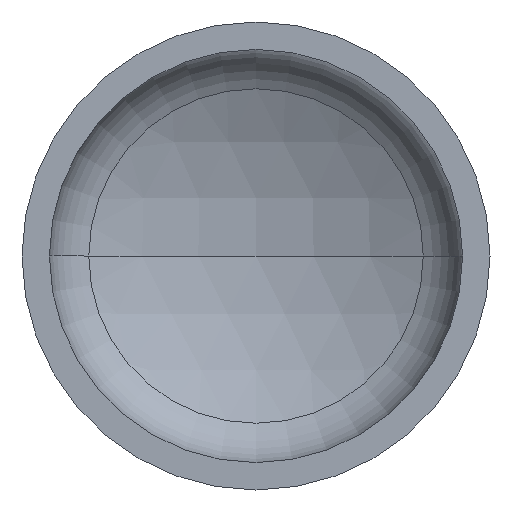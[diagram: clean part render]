
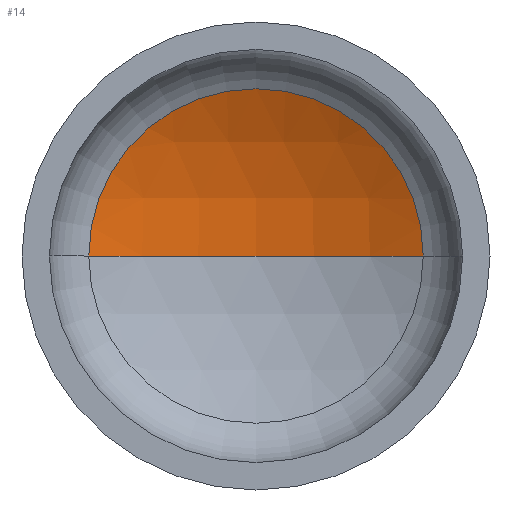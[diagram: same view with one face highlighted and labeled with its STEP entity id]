
A CAD part, front view. The second image highlights one B-rep face of the part: STEP entity #14.
In plain terms, the highlighted spherical face has radius 254 mm.
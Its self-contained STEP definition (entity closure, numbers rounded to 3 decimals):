
#3 = VERTEX_POINT ( 'NONE', #191 ) ;
#12 = AXIS2_PLACEMENT_3D ( 'NONE', #239, #400, #274 ) ;
#14 = ADVANCED_FACE ( 'NONE', ( #321 ), #141, .F. ) ;
#25 = AXIS2_PLACEMENT_3D ( 'NONE', #140, #311, #177 ) ;
#36 = VERTEX_POINT ( 'NONE', #174 ) ;
#57 = ORIENTED_EDGE ( 'NONE', *, *, #356, .T. ) ;
#70 = ORIENTED_EDGE ( 'NONE', *, *, #163, .T. ) ;
#88 = EDGE_LOOP ( 'NONE', ( #96, #57, #70 ) ) ;
#89 = VERTEX_POINT ( 'NONE', #262 ) ;
#92 = AXIS2_PLACEMENT_3D ( 'NONE', #234, #393, #263 ) ;
#96 = ORIENTED_EDGE ( 'NONE', *, *, #357, .F. ) ;
#140 = CARTESIAN_POINT ( 'NONE',  ( 0., -121.594, 0. ) ) ;
#141 = SPHERICAL_SURFACE ( 'NONE', #143, 254. ) ;
#143 = AXIS2_PLACEMENT_3D ( 'NONE', #282, #323, #322 ) ;
#163 = EDGE_CURVE ( 'NONE', #89, #3, #362, .T. ) ;
#174 = CARTESIAN_POINT ( 'NONE',  ( 0., 132.406, 0. ) ) ;
#177 = DIRECTION ( 'NONE',  ( 1., 0., 0. ) ) ;
#191 = CARTESIAN_POINT ( 'NONE',  ( -115.732, 104.508, 0. ) ) ;
#210 = CIRCLE ( 'NONE', #25, 254. ) ;
#234 = CARTESIAN_POINT ( 'NONE',  ( 0., 104.508, 0. ) ) ;
#239 = CARTESIAN_POINT ( 'NONE',  ( 0., -121.594, 0. ) ) ;
#262 = CARTESIAN_POINT ( 'NONE',  ( 115.732, 104.508, 0. ) ) ;
#263 = DIRECTION ( 'NONE',  ( 1., 0., 0. ) ) ;
#271 = CIRCLE ( 'NONE', #12, 254. ) ;
#274 = DIRECTION ( 'NONE',  ( -1., 0., 0. ) ) ;
#282 = CARTESIAN_POINT ( 'NONE',  ( 0., -121.594, 0. ) ) ;
#311 = DIRECTION ( 'NONE',  ( 0., 0., 1. ) ) ;
#321 = FACE_OUTER_BOUND ( 'NONE', #88, .T. ) ;
#322 = DIRECTION ( 'NONE',  ( -1., 0., 0. ) ) ;
#323 = DIRECTION ( 'NONE',  ( 0., 0., -1. ) ) ;
#356 = EDGE_CURVE ( 'NONE', #36, #89, #271, .T. ) ;
#357 = EDGE_CURVE ( 'NONE', #36, #3, #210, .T. ) ;
#362 = CIRCLE ( 'NONE', #92, 115.732 ) ;
#393 = DIRECTION ( 'NONE',  ( 0., -1., 0. ) ) ;
#400 = DIRECTION ( 'NONE',  ( 0., 0., -1. ) ) ;
